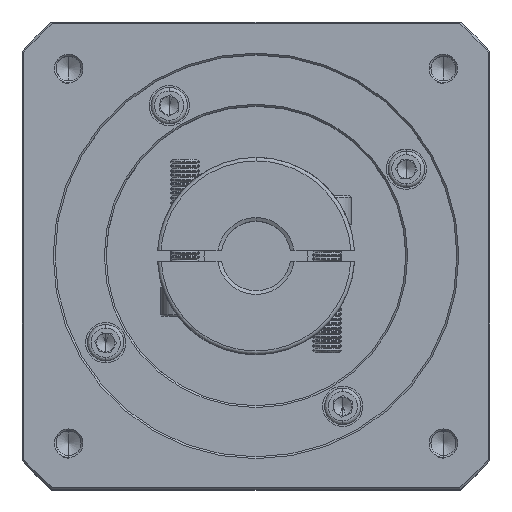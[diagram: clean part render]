
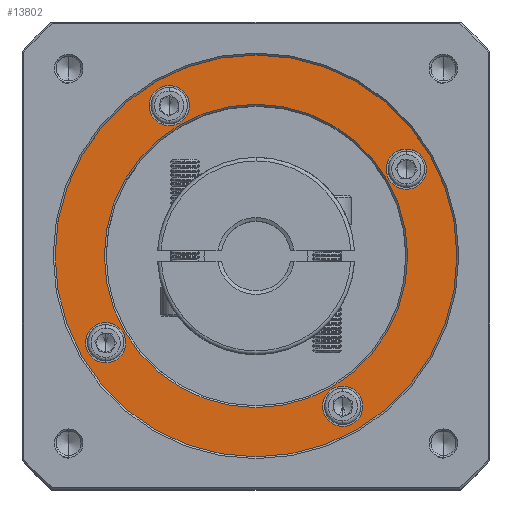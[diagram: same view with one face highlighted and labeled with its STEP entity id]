
A CAD part, top view. The second image highlights one B-rep face of the part: STEP entity #13802.
In plain terms, the highlighted planar face has unit normal (0, 0, 1).
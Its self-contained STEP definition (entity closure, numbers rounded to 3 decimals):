
#488 = CARTESIAN_POINT ( 'NONE',  ( 100.432, 62.961, -8.954 ) ) ;
#2401 = VERTEX_POINT ( 'NONE', #116637 ) ;
#3244 = CIRCLE ( 'NONE', #102498, 5.5 ) ;
#3748 = CARTESIAN_POINT ( 'NONE',  ( 59.296, 39.211, -8.954 ) ) ;
#6744 = ORIENTED_EDGE ( 'NONE', *, *, #34935, .T. ) ;
#6892 = EDGE_CURVE ( 'NONE', #10327, #45910, #101083, .T. ) ;
#8906 = EDGE_LOOP ( 'NONE', ( #133853, #124384 ) ) ;
#9112 = VERTEX_POINT ( 'NONE', #29680 ) ;
#10078 = DIRECTION ( 'NONE',  ( 0., 1., 0. ) ) ;
#10327 = VERTEX_POINT ( 'NONE', #30284 ) ;
#12527 = VERTEX_POINT ( 'NONE', #31186 ) ;
#13510 = CARTESIAN_POINT ( 'NONE',  ( 83.046, -1.925, -8.954 ) ) ;
#13802 = ADVANCED_FACE ( 'NONE', ( #61866, #51738, #90400, #117179, #29916, #88649 ), #80689, .T. ) ;
#14428 = DIRECTION ( 'NONE',  ( 0., 0., -1. ) ) ;
#14905 = EDGE_CURVE ( 'NONE', #135332, #9112, #87889, .T. ) ;
#18297 = EDGE_LOOP ( 'NONE', ( #95080, #120549 ) ) ;
#19033 = AXIS2_PLACEMENT_3D ( 'NONE', #106715, #84696, #10078 ) ;
#20270 = ORIENTED_EDGE ( 'NONE', *, *, #65583, .T. ) ;
#21758 = VERTEX_POINT ( 'NONE', #39713 ) ;
#23378 = DIRECTION ( 'NONE',  ( 1., 0., 0. ) ) ;
#25875 = ORIENTED_EDGE ( 'NONE', *, *, #38150, .T. ) ;
#26258 = DIRECTION ( 'NONE',  ( 0., 0., 1. ) ) ;
#29680 = CARTESIAN_POINT ( 'NONE',  ( 35.546, 74.848, -8.954 ) ) ;
#29916 = FACE_BOUND ( 'NONE', #70184, .T. ) ;
#30284 = CARTESIAN_POINT ( 'NONE',  ( 59.296, 94.211, -8.954 ) ) ;
#30981 = DIRECTION ( 'NONE',  ( 0., 0., -1. ) ) ;
#31186 = CARTESIAN_POINT ( 'NONE',  ( 100.432, 57.461, -8.954 ) ) ;
#31945 = DIRECTION ( 'NONE',  ( 0., 1., 0. ) ) ;
#34935 = EDGE_CURVE ( 'NONE', #110624, #76914, #68167, .T. ) ;
#35089 = VERTEX_POINT ( 'NONE', #128108 ) ;
#35321 = ORIENTED_EDGE ( 'NONE', *, *, #107713, .T. ) ;
#36526 = CARTESIAN_POINT ( 'NONE',  ( 18.16, 15.461, -8.954 ) ) ;
#37477 = CARTESIAN_POINT ( 'NONE',  ( 83.046, -1.925, -8.954 ) ) ;
#38150 = EDGE_CURVE ( 'NONE', #45910, #10327, #101033, .T. ) ;
#38799 = CIRCLE ( 'NONE', #71189, 5.5 ) ;
#39268 = EDGE_CURVE ( 'NONE', #2401, #21758, #3244, .T. ) ;
#39274 = AXIS2_PLACEMENT_3D ( 'NONE', #75265, #118907, #117510 ) ;
#39713 = CARTESIAN_POINT ( 'NONE',  ( 83.046, -7.425, -8.954 ) ) ;
#40595 = CIRCLE ( 'NONE', #114034, 5.5 ) ;
#42748 = CARTESIAN_POINT ( 'NONE',  ( 35.546, 80.348, -8.954 ) ) ;
#43561 = DIRECTION ( 'NONE',  ( 0., 0., -1. ) ) ;
#44269 = CIRCLE ( 'NONE', #58353, 41.5 ) ;
#44270 = AXIS2_PLACEMENT_3D ( 'NONE', #73719, #30981, #94844 ) ;
#45866 = EDGE_LOOP ( 'NONE', ( #52342, #25875 ) ) ;
#45910 = VERTEX_POINT ( 'NONE', #55232 ) ;
#46736 = CARTESIAN_POINT ( 'NONE',  ( 59.296, 39.211, -8.954 ) ) ;
#48286 = VERTEX_POINT ( 'NONE', #59244 ) ;
#48408 = CARTESIAN_POINT ( 'NONE',  ( 18.16, 9.961, -8.954 ) ) ;
#48716 = DIRECTION ( 'NONE',  ( 0., 1., 0. ) ) ;
#51738 = FACE_BOUND ( 'NONE', #8906, .T. ) ;
#52342 = ORIENTED_EDGE ( 'NONE', *, *, #6892, .T. ) ;
#53535 = CIRCLE ( 'NONE', #90228, 5.5 ) ;
#55232 = CARTESIAN_POINT ( 'NONE',  ( 59.296, -15.789, -8.954 ) ) ;
#55439 = ORIENTED_EDGE ( 'NONE', *, *, #76936, .T. ) ;
#56127 = VERTEX_POINT ( 'NONE', #85530 ) ;
#56618 = DIRECTION ( 'NONE',  ( 0., 1., 0. ) ) ;
#58353 = AXIS2_PLACEMENT_3D ( 'NONE', #3748, #132687, #90020 ) ;
#58638 = DIRECTION ( 'NONE',  ( 0., 1., 0. ) ) ;
#59244 = CARTESIAN_POINT ( 'NONE',  ( 100.796, 39.211, -8.954 ) ) ;
#61866 = FACE_OUTER_BOUND ( 'NONE', #45866, .T. ) ;
#62959 = CARTESIAN_POINT ( 'NONE',  ( 18.16, 20.961, -8.954 ) ) ;
#65583 = EDGE_CURVE ( 'NONE', #76914, #110624, #68847, .T. ) ;
#66384 = CIRCLE ( 'NONE', #135115, 41.5 ) ;
#68167 = CIRCLE ( 'NONE', #44270, 5.5 ) ;
#68847 = CIRCLE ( 'NONE', #81367, 5.5 ) ;
#70184 = EDGE_LOOP ( 'NONE', ( #20270, #6744 ) ) ;
#70202 = EDGE_LOOP ( 'NONE', ( #35321, #55439 ) ) ;
#71189 = AXIS2_PLACEMENT_3D ( 'NONE', #132098, #14428, #89425 ) ;
#71720 = DIRECTION ( 'NONE',  ( 0., 1., 0. ) ) ;
#73719 = CARTESIAN_POINT ( 'NONE',  ( 18.16, 15.461, -8.954 ) ) ;
#75265 = CARTESIAN_POINT ( 'NONE',  ( 35.546, 80.348, -8.954 ) ) ;
#75528 = DIRECTION ( 'NONE',  ( 0., 1., 0. ) ) ;
#76914 = VERTEX_POINT ( 'NONE', #62959 ) ;
#76936 = EDGE_CURVE ( 'NONE', #12527, #56127, #40595, .T. ) ;
#79662 = CARTESIAN_POINT ( 'NONE',  ( 35.546, 85.848, -8.954 ) ) ;
#79737 = ORIENTED_EDGE ( 'NONE', *, *, #104021, .T. ) ;
#80689 = PLANE ( 'NONE',  #111634 ) ;
#81367 = AXIS2_PLACEMENT_3D ( 'NONE', #36526, #111632, #58638 ) ;
#84696 = DIRECTION ( 'NONE',  ( 0., 0., 1. ) ) ;
#85500 = DIRECTION ( 'NONE',  ( 0., 0., -1. ) ) ;
#85530 = CARTESIAN_POINT ( 'NONE',  ( 100.432, 68.461, -8.954 ) ) ;
#87889 = CIRCLE ( 'NONE', #92938, 5.5 ) ;
#88119 = DIRECTION ( 'NONE',  ( 0., 0., -1. ) ) ;
#88649 = FACE_BOUND ( 'NONE', #114284, .T. ) ;
#89425 = DIRECTION ( 'NONE',  ( 0., 1., 0. ) ) ;
#90020 = DIRECTION ( 'NONE',  ( 1., 0., 0. ) ) ;
#90228 = AXIS2_PLACEMENT_3D ( 'NONE', #13510, #99727, #56618 ) ;
#90400 = FACE_BOUND ( 'NONE', #18297, .T. ) ;
#92938 = AXIS2_PLACEMENT_3D ( 'NONE', #42748, #85500, #31945 ) ;
#94844 = DIRECTION ( 'NONE',  ( 0., 1., 0. ) ) ;
#95080 = ORIENTED_EDGE ( 'NONE', *, *, #14905, .T. ) ;
#99727 = DIRECTION ( 'NONE',  ( 0., 0., -1. ) ) ;
#101033 = CIRCLE ( 'NONE', #132851, 55. ) ;
#101083 = CIRCLE ( 'NONE', #19033, 55. ) ;
#102498 = AXIS2_PLACEMENT_3D ( 'NONE', #37477, #112080, #102694 ) ;
#102694 = DIRECTION ( 'NONE',  ( 0., 1., 0. ) ) ;
#104011 = CIRCLE ( 'NONE', #39274, 5.5 ) ;
#104021 = EDGE_CURVE ( 'NONE', #21758, #2401, #53535, .T. ) ;
#104960 = CARTESIAN_POINT ( 'NONE',  ( 59.296, 39.211, -8.954 ) ) ;
#106715 = CARTESIAN_POINT ( 'NONE',  ( 59.296, 39.211, -8.954 ) ) ;
#107713 = EDGE_CURVE ( 'NONE', #56127, #12527, #38799, .T. ) ;
#110078 = ORIENTED_EDGE ( 'NONE', *, *, #39268, .T. ) ;
#110624 = VERTEX_POINT ( 'NONE', #48408 ) ;
#111632 = DIRECTION ( 'NONE',  ( 0., 0., -1. ) ) ;
#111634 = AXIS2_PLACEMENT_3D ( 'NONE', #112572, #26258, #48716 ) ;
#112080 = DIRECTION ( 'NONE',  ( 0., 0., -1. ) ) ;
#112572 = CARTESIAN_POINT ( 'NONE',  ( 59.296, 39.211, -8.954 ) ) ;
#114034 = AXIS2_PLACEMENT_3D ( 'NONE', #488, #43561, #75528 ) ;
#114284 = EDGE_LOOP ( 'NONE', ( #110078, #79737 ) ) ;
#116637 = CARTESIAN_POINT ( 'NONE',  ( 83.046, 3.575, -8.954 ) ) ;
#117179 = FACE_BOUND ( 'NONE', #70202, .T. ) ;
#117510 = DIRECTION ( 'NONE',  ( 0., 1., 0. ) ) ;
#118907 = DIRECTION ( 'NONE',  ( 0., 0., -1. ) ) ;
#120549 = ORIENTED_EDGE ( 'NONE', *, *, #124991, .T. ) ;
#123361 = EDGE_CURVE ( 'NONE', #35089, #48286, #66384, .T. ) ;
#124384 = ORIENTED_EDGE ( 'NONE', *, *, #123361, .T. ) ;
#124991 = EDGE_CURVE ( 'NONE', #9112, #135332, #104011, .T. ) ;
#128108 = CARTESIAN_POINT ( 'NONE',  ( 17.796, 39.211, -8.954 ) ) ;
#132098 = CARTESIAN_POINT ( 'NONE',  ( 100.432, 62.961, -8.954 ) ) ;
#132687 = DIRECTION ( 'NONE',  ( 0., 0., -1. ) ) ;
#132851 = AXIS2_PLACEMENT_3D ( 'NONE', #104960, #137330, #71720 ) ;
#133853 = ORIENTED_EDGE ( 'NONE', *, *, #136909, .T. ) ;
#135115 = AXIS2_PLACEMENT_3D ( 'NONE', #46736, #88119, #23378 ) ;
#135332 = VERTEX_POINT ( 'NONE', #79662 ) ;
#136909 = EDGE_CURVE ( 'NONE', #48286, #35089, #44269, .T. ) ;
#137330 = DIRECTION ( 'NONE',  ( 0., 0., 1. ) ) ;
